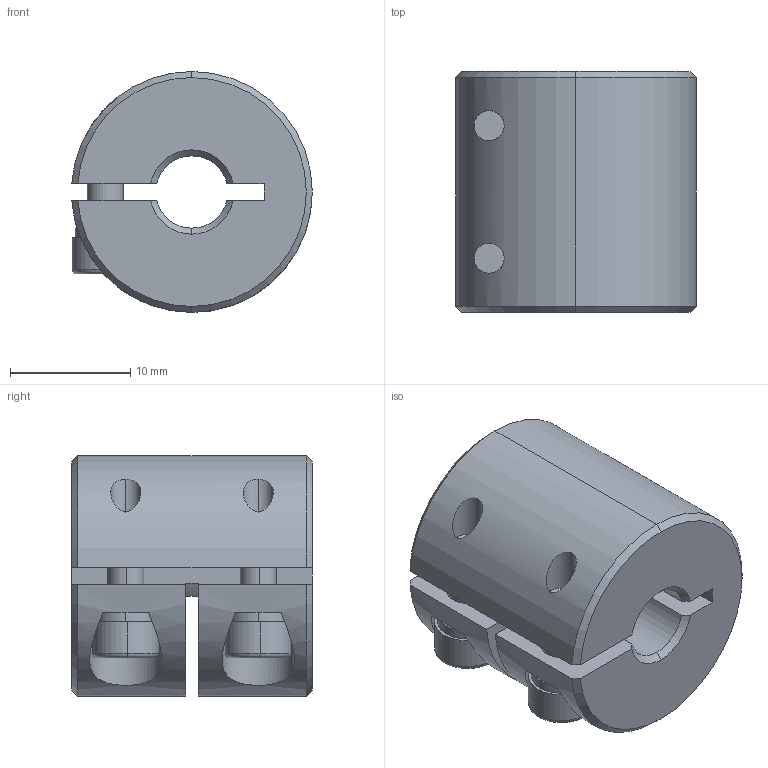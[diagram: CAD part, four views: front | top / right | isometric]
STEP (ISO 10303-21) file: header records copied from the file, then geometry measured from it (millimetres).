
FILE_DESCRIPTION (( 'STEP AP203' ), '1' );
FILE_NAME ('LL-B-D20L20-6-10.STEP', '2021-11-03T05:26:20', ( '' ), ( '' ), 'SwSTEP 2.0', 'SolidWorks 2018', '' );
FILE_SCHEMA (( 'CONFIG_CONTROL_DESIGN' ));
Length unit declared in the file: millimetre
Products named in the file (1): LL-B-D20L20-6-10
Bounding box: 19.98 x 20 x 20 mm (x, y, z)
Volume: 4747.5 mm3; surface area: 3120.9 mm2
Topology: 1 solids, 1 shells, 115 faces, 298 edges, 187 vertices
Faces by surface type: plane 53, cylinder 42, cone 16, torus 4
Entity records: 3764 total; most frequent: CARTESIAN_POINT 831, DIRECTION 625, ORIENTED_EDGE 588, EDGE_CURVE 294, AXIS2_PLACEMENT_3D 241, VERTEX_POINT 187, LINE 143, VECTOR 143
